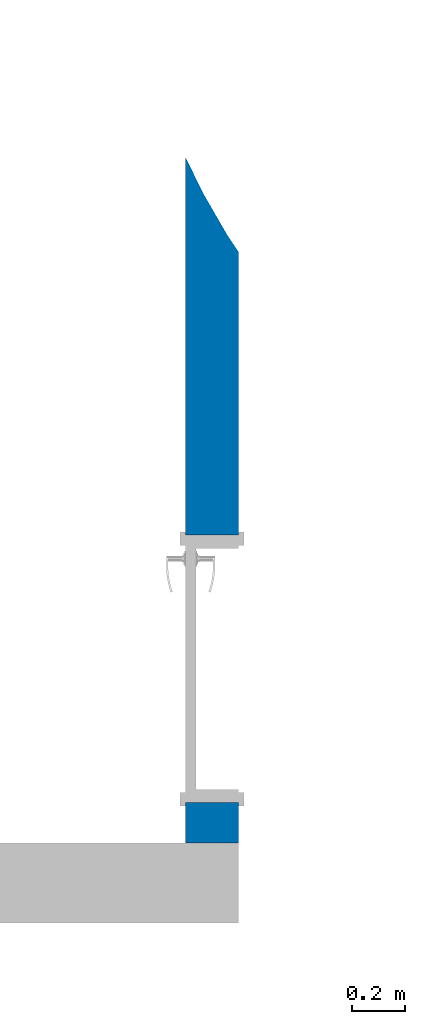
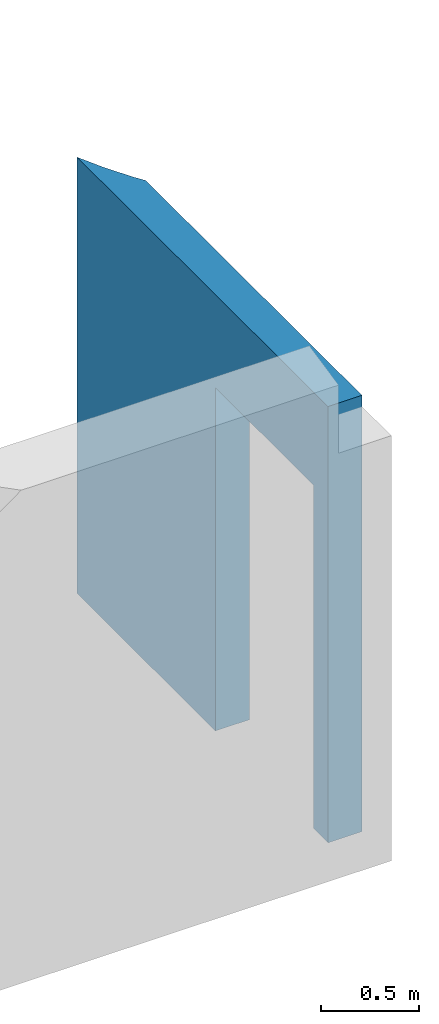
# One storey, part 2 of 7: 1 wall, 1 opening.
"""IFC4 building model written with IfcOpenShell, lengths in millimetres."""

from ifc_helpers import new_model, entity, si_unit, converted_unit, derived_unit, direction, frame, origin_with_axes, place, context, subcontext, project, spatial, polygons, material, constituent, constituent_set, type_object, element, save


model = new_model("IFC4")

# Units and contexts
model_context = context("Model", 3, precision=0.01, world=origin_with_axes(), true_north=direction((0.0, 1.0)))
body_context = subcontext(model_context, "Body", "Model", "MODEL_VIEW")
ifc_project = project(units=[si_unit("LENGTHUNIT", "METRE", prefix="MILLI"), si_unit("AREAUNIT", "SQUARE_METRE"), si_unit("VOLUMEUNIT", "CUBIC_METRE"), converted_unit("PLANEANGLEUNIT", "DEGREE", entity("IfcPlaneAngleMeasure", 0.0174532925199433), si_unit("PLANEANGLEUNIT", "RADIAN"), dimensions=[0, 0, 0, 0, 0, 0, 0]), converted_unit("TIMEUNIT", "Year", entity("IfcTimeMeasure", 31557600.0), si_unit("TIMEUNIT", "SECOND"), dimensions=[0, 0, 1, 0, 0, 0, 0]), si_unit("MASSUNIT", "GRAM", prefix="KILO"), si_unit("THERMODYNAMICTEMPERATUREUNIT", "DEGREE_CELSIUS"), si_unit("LUMINOUSINTENSITYUNIT", "LUMEN"), si_unit("ENERGYUNIT", "JOULE", prefix="MEGA"), derived_unit("THERMALCONDUCTANCEUNIT", [(si_unit("POWERUNIT", "WATT"), 1), (si_unit("LENGTHUNIT", "METRE"), -1), (si_unit("THERMODYNAMICTEMPERATUREUNIT", "KELVIN"), -1)]), derived_unit("SPECIFICHEATCAPACITYUNIT", [(si_unit("ENERGYUNIT", "JOULE"), 1), (si_unit("MASSUNIT", "GRAM", prefix="KILO"), -1), (si_unit("THERMODYNAMICTEMPERATUREUNIT", "KELVIN"), -1)]), derived_unit("MASSDENSITYUNIT", [(si_unit("MASSUNIT", "GRAM", prefix="KILO"), 1), (si_unit("VOLUMEUNIT", "CUBIC_METRE"), -1)])], contexts=[model_context])

# Site, building, storey
site_placement = place(None, origin_with_axes())
site = spatial("IfcSite", under=ifc_project, at=site_placement, Name="Exteriér", CompositionType="ELEMENT")
building_placement = place(site_placement, origin_with_axes())
building = spatial("IfcBuilding", under=site, at=building_placement, Name="Univerzitní lezecké centrum", CompositionType="ELEMENT")
storey_placement = place(building_placement, frame((0.0, 0.0, 9600.000000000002), z_axis=(0.0, 0.0, 1.0), x_axis=(1.0, 0.0, 0.0)))
storey = spatial("IfcBuildingStorey", under=building, at=storey_placement, Name="4.NP", CompositionType="ELEMENT", Elevation=9600.0)

# Wall, opening
ifc_material = material(Name="Beton vyztužený - vnitřní svislé kce")
ifc_constituent = constituent(ifc_material, Name="Beton vyztužený - vnitřní svislé kce")
ifc_constituent_set = constituent_set(constituents=[ifc_constituent], Name="!Vnitřní betonová stěna 200 mm")
wall_type = type_object("IfcWallType", Name="!Vnitřní betonová stěna 200 mm 200", PredefinedType="NOTDEFINED")
wall_placement = place(storey_placement, frame((199.7521361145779, 2610.480756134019, -120.000000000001), z_axis=(0.0, 0.0, 1.0), x_axis=(0.0, -1.0, 0.0)))
wall = element("IfcWall", 1, at=wall_placement, inside=storey, type_object=wall_type, material=ifc_constituent_set, Name="St05", PredefinedType="NOTDEFINED", context=body_context, shape_type="Tessellation", body=[
    polygons([(1460.480756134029, 9.21005590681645e-05, 0.5000000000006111), (1460.480756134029, 9.21005590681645e-05, 0.0), (402.8170038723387, 1.668931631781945e-05, 0.0), (402.8170038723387, 1.668931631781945e-05, 2720.0), (2610.48075613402, 1.995832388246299e-06, 2720.0), (2610.48075613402, 1.995831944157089e-06, 0.0), (2460.480756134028, 9.210055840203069e-05, 0.0), (2460.480756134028, 9.210055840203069e-05, 0.5000000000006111), (2460.480756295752, 1.668931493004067e-05, 120.000000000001), (2460.480756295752, 1.995832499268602e-06, 2140.0), (1460.480756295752, 1.995833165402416e-06, 2140.0), (1460.480756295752, 1.668931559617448e-05, 120.000000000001), (1460.480756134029, -199.9999078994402, 0.5000000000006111), (1460.480756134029, -199.9999078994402, 0.0), (47.01301357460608, -199.9999999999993, 0.0), (87.1615395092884, -180.0079610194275, 0.0), (186.2549562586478, -131.0233630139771, 0.0), (334.7065560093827, -45.31479193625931, 0.0), (334.7065560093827, -45.31479193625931, 2720.000000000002), (47.01301357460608, -199.9999999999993, 2720.000000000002), (2610.48075613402, -200.000000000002, 2720.0), (186.2549562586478, -131.0233630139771, 2720.000000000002), (87.1615395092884, -180.0079610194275, 2720.000000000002), (2610.48075613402, -200.000000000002, 0.0), (2460.480756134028, -199.9999078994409, 0.0), (2460.480756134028, -199.9999078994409, 0.5000000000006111), (2460.480756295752, -200.000000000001, 120.000000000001), (2460.480756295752, -200.0000000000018, 2140.0), (1460.480756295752, -200.0000000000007, 2140.0), (1460.480756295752, -200.0000000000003, 120.000000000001)], [[[1, 2, 3, 4, 5, 6, 7, 8, 9, 10, 11, 12]], [[2, 1, 13, 14]], [[2, 14, 15, 16, 17, 18, 3]], [[3, 18, 19, 4]], [[20, 21, 5, 4, 19, 22, 23]], [[21, 24, 6, 5]], [[25, 7, 6, 24]], [[26, 8, 7, 25]], [[8, 26, 27, 9]], [[28, 10, 9, 27]], [[29, 11, 10, 28]], [[30, 12, 11, 29]], [[13, 1, 12, 30]], [[14, 13, 30, 29, 28, 27, 26, 25, 24, 21, 20, 15]], [[16, 15, 20, 23]], [[17, 16, 23, 22]], [[18, 17, 22, 19]]], closed=True),
])
opening_placement = place(wall_placement, frame((1960.480756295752, 0.0, 120.000000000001), z_axis=(0.0, 0.0, 1.0), x_axis=(1.0, 0.0, 0.0)))
element("IfcOpeningElement", 2, at=opening_placement, cuts=wall, Name="D16", context=body_context, identifier="Reference", shape_type="Tessellation", body=[
    polygons([(-499.9999999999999, 1.000000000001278, 0.0), (-499.9999999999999, 1.000000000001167, 2020.0), (500.0, 1.000000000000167, 2020.0), (500.0, 1.000000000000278, 0.0), (-511.9999999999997, 1.000000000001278, 0.0), (-511.9999999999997, 1.000000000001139, 2032.0), (512.0000000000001, 1.00000000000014, 2032.0), (512.0000000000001, 1.000000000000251, 0.0), (-499.9999999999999, 0.0, 0.0), (500.0, 0.0, 0.0), (499.9999999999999, -200.0000000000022, 0.0), (500.0000000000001, -201.0000000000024, 0.0), (-500.0000000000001, -201.0000000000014, 0.0), (-500.0000000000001, -200.0000000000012, 0.0), (-511.9999999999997, 0.0, 0.0), (-511.9999999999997, 0.0, 2032.0), (512.0000000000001, 0.0, 2032.0), (512.0000000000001, 0.0, 0.0), (500.0, 0.0, 2020.0), (499.9999999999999, -200.0000000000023, 2020.0), (511.9999999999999, -200.0000000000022, 0.0), (511.9999999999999, -201.0000000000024, 0.0), (511.9999999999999, -201.0000000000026, 2032.0), (-512.0000000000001, -201.0000000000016, 2032.0), (-512.0000000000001, -201.0000000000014, 0.0), (-512.0000000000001, -200.0000000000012, 0.0), (-499.9999999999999, 0.0, 2020.0), (-500.0000000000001, -200.0000000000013, 2020.0), (-512.0000000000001, -200.0000000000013, 2032.0), (511.9999999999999, -200.0000000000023, 2032.0)], [[[1, 2, 3, 4]], [[3, 2, 1, 5, 6, 7, 8, 4]], [[9, 1, 4, 10, 11, 12, 13, 14]], [[1, 9, 15, 5]], [[15, 16, 6, 5]], [[16, 17, 7, 6]], [[17, 18, 8, 7]], [[10, 4, 8, 18]], [[10, 19, 20, 11]], [[12, 11, 21, 22]], [[13, 12, 22, 23, 24, 25]], [[14, 13, 25, 26]], [[27, 9, 14, 28]], [[9, 27, 19, 10, 18, 17, 16, 15]], [[19, 27, 28, 20]], [[20, 28, 14, 26, 29, 30, 21, 11]], [[21, 30, 23, 22]], [[30, 29, 24, 23]], [[29, 26, 25, 24]]], closed=True),
])

save(model, "model.ifc")
